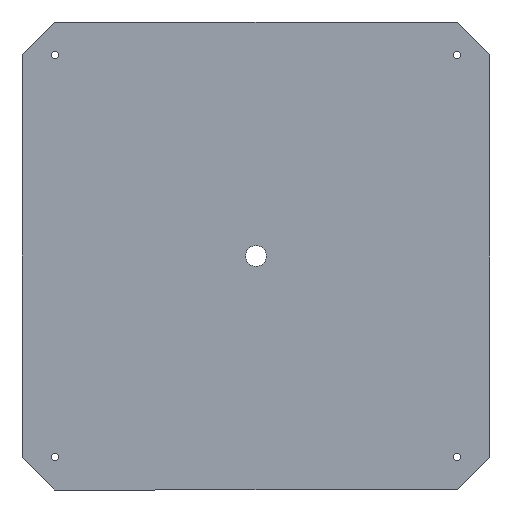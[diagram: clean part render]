
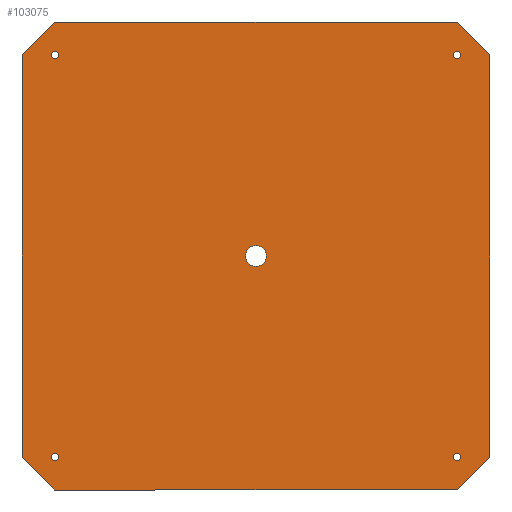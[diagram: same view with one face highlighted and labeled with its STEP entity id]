
A CAD part, front view. The second image highlights one B-rep face of the part: STEP entity #103075.
In plain terms, the highlighted planar face has unit normal (0, -1, 0).
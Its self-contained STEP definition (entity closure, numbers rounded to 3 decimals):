
#303 = EDGE_CURVE ( 'NONE', #1341, #1341, #80208, .T. ) ;
#381 = ORIENTED_EDGE ( 'NONE', *, *, #28779, .T. ) ;
#575 = CARTESIAN_POINT ( 'NONE',  ( -122., 0., -142. ) ) ;
#1329 = LINE ( 'NONE', #100580, #64411 ) ;
#1341 = VERTEX_POINT ( 'NONE', #25809 ) ;
#1510 = FACE_BOUND ( 'NONE', #94561, .T. ) ;
#3988 = LINE ( 'NONE', #37195, #11461 ) ;
#6443 = LINE ( 'NONE', #88797, #55093 ) ;
#8052 = CARTESIAN_POINT ( 'NONE',  ( 122., 0., 122. ) ) ;
#9137 = DIRECTION ( 'NONE',  ( 0., 1., 0. ) ) ;
#9542 = VECTOR ( 'NONE', #18320, 1000. ) ;
#11087 = ORIENTED_EDGE ( 'NONE', *, *, #19248, .F. ) ;
#11461 = VECTOR ( 'NONE', #103785, 1000. ) ;
#11804 = FACE_BOUND ( 'NONE', #99023, .T. ) ;
#12681 = VECTOR ( 'NONE', #64590, 1000. ) ;
#12717 = VERTEX_POINT ( 'NONE', #54646 ) ;
#12738 = CARTESIAN_POINT ( 'NONE',  ( 142., 0., 122. ) ) ;
#12750 = LINE ( 'NONE', #95714, #100981 ) ;
#13565 = DIRECTION ( 'NONE',  ( 0., 1., 0. ) ) ;
#14107 = DIRECTION ( 'NONE',  ( -0.707, 0., 0.707 ) ) ;
#14486 = EDGE_LOOP ( 'NONE', ( #83031 ) ) ;
#16304 = VERTEX_POINT ( 'NONE', #25543 ) ;
#17107 = CARTESIAN_POINT ( 'NONE',  ( -122., 0., -119.75 ) ) ;
#18183 = VERTEX_POINT ( 'NONE', #25245 ) ;
#18320 = DIRECTION ( 'NONE',  ( 0.707, 0., 0.707 ) ) ;
#18744 = ORIENTED_EDGE ( 'NONE', *, *, #35660, .T. ) ;
#19248 = EDGE_CURVE ( 'NONE', #81683, #16304, #48349, .T. ) ;
#19258 = ORIENTED_EDGE ( 'NONE', *, *, #77084, .T. ) ;
#19315 = DIRECTION ( 'NONE',  ( -0.707, 0., -0.707 ) ) ;
#19697 = VERTEX_POINT ( 'NONE', #38297 ) ;
#19974 = FACE_BOUND ( 'NONE', #93818, .T. ) ;
#20864 = VERTEX_POINT ( 'NONE', #575 ) ;
#21121 = AXIS2_PLACEMENT_3D ( 'NONE', #52563, #43862, #27472 ) ;
#21749 = ORIENTED_EDGE ( 'NONE', *, *, #83913, .T. ) ;
#23179 = CIRCLE ( 'NONE', #101652, 2.25 ) ;
#25245 = CARTESIAN_POINT ( 'NONE',  ( 122., 0., -119.75 ) ) ;
#25543 = CARTESIAN_POINT ( 'NONE',  ( -142., 0., 122. ) ) ;
#25809 = CARTESIAN_POINT ( 'NONE',  ( 0., 0., 6.35 ) ) ;
#26685 = EDGE_CURVE ( 'NONE', #81683, #20864, #1329, .T. ) ;
#26741 = AXIS2_PLACEMENT_3D ( 'NONE', #77510, #86294, #86839 ) ;
#27039 = CARTESIAN_POINT ( 'NONE',  ( 122., 0., -142. ) ) ;
#27404 = ORIENTED_EDGE ( 'NONE', *, *, #50290, .T. ) ;
#27472 = DIRECTION ( 'NONE',  ( 0., 0., 1. ) ) ;
#27578 = LINE ( 'NONE', #27039, #9542 ) ;
#27598 = FACE_OUTER_BOUND ( 'NONE', #40726, .T. ) ;
#27754 = ORIENTED_EDGE ( 'NONE', *, *, #69409, .F. ) ;
#28052 = VECTOR ( 'NONE', #37110, 1000. ) ;
#28779 = EDGE_CURVE ( 'NONE', #18183, #18183, #23179, .T. ) ;
#30018 = LINE ( 'NONE', #63731, #28052 ) ;
#32041 = DIRECTION ( 'NONE',  ( 0., 0., 1. ) ) ;
#33108 = CIRCLE ( 'NONE', #50454, 2.25 ) ;
#33517 = CARTESIAN_POINT ( 'NONE',  ( -142., 0., 142. ) ) ;
#33972 = VERTEX_POINT ( 'NONE', #17107 ) ;
#34688 = CARTESIAN_POINT ( 'NONE',  ( 0., 0., 0. ) ) ;
#34909 = AXIS2_PLACEMENT_3D ( 'NONE', #34688, #68470, #43428 ) ;
#35288 = VERTEX_POINT ( 'NONE', #94795 ) ;
#35660 = EDGE_CURVE ( 'NONE', #33972, #33972, #51936, .T. ) ;
#35694 = VERTEX_POINT ( 'NONE', #73212 ) ;
#37110 = DIRECTION ( 'NONE',  ( 0., 0., -1. ) ) ;
#37195 = CARTESIAN_POINT ( 'NONE',  ( 142., 0., -142. ) ) ;
#37297 = EDGE_CURVE ( 'NONE', #87260, #35694, #30018, .T. ) ;
#37533 = DIRECTION ( 'NONE',  ( 0., 0., 1. ) ) ;
#38297 = CARTESIAN_POINT ( 'NONE',  ( 122., 0., 142. ) ) ;
#40726 = EDGE_LOOP ( 'NONE', ( #11087, #50120, #68578, #27404, #104910, #21749, #27754, #19258 ) ) ;
#41515 = ORIENTED_EDGE ( 'NONE', *, *, #46970, .T. ) ;
#41617 = DIRECTION ( 'NONE',  ( 0.707, 0., -0.707 ) ) ;
#43428 = DIRECTION ( 'NONE',  ( 0., 0., 1. ) ) ;
#43862 = DIRECTION ( 'NONE',  ( 0., 1., 0. ) ) ;
#44971 = AXIS2_PLACEMENT_3D ( 'NONE', #81916, #97377, #49265 ) ;
#45975 = CARTESIAN_POINT ( 'NONE',  ( 122., 0., 124.25 ) ) ;
#46970 = EDGE_CURVE ( 'NONE', #75341, #75341, #33108, .T. ) ;
#48349 = LINE ( 'NONE', #80981, #69288 ) ;
#49265 = DIRECTION ( 'NONE',  ( 0., 0., 1. ) ) ;
#50104 = ORIENTED_EDGE ( 'NONE', *, *, #106057, .T. ) ;
#50120 = ORIENTED_EDGE ( 'NONE', *, *, #26685, .T. ) ;
#50290 = EDGE_CURVE ( 'NONE', #35288, #35694, #27578, .T. ) ;
#50454 = AXIS2_PLACEMENT_3D ( 'NONE', #8052, #9137, #32041 ) ;
#51936 = CIRCLE ( 'NONE', #44971, 2.25 ) ;
#52563 = CARTESIAN_POINT ( 'NONE',  ( 0., 0., 0. ) ) ;
#53986 = VERTEX_POINT ( 'NONE', #62417 ) ;
#54646 = CARTESIAN_POINT ( 'NONE',  ( -122., 0., 124.25 ) ) ;
#55093 = VECTOR ( 'NONE', #14107, 1000. ) ;
#55422 = DIRECTION ( 'NONE',  ( 0., 0., 1. ) ) ;
#61334 = FACE_BOUND ( 'NONE', #104372, .T. ) ;
#62417 = CARTESIAN_POINT ( 'NONE',  ( -122., 0., 142. ) ) ;
#63731 = CARTESIAN_POINT ( 'NONE',  ( 142., 0., 142. ) ) ;
#64411 = VECTOR ( 'NONE', #41617, 1000. ) ;
#64590 = DIRECTION ( 'NONE',  ( 1., 0., 0. ) ) ;
#68470 = DIRECTION ( 'NONE',  ( 0., 1., 0. ) ) ;
#68578 = ORIENTED_EDGE ( 'NONE', *, *, #90885, .F. ) ;
#69288 = VECTOR ( 'NONE', #55422, 1000. ) ;
#69409 = EDGE_CURVE ( 'NONE', #53986, #19697, #73310, .T. ) ;
#70212 = CIRCLE ( 'NONE', #26741, 2.25 ) ;
#71599 = CARTESIAN_POINT ( 'NONE',  ( -142., 0., -122. ) ) ;
#73212 = CARTESIAN_POINT ( 'NONE',  ( 142., 0., -122. ) ) ;
#73310 = LINE ( 'NONE', #33517, #12681 ) ;
#75341 = VERTEX_POINT ( 'NONE', #45975 ) ;
#77084 = EDGE_CURVE ( 'NONE', #53986, #16304, #12750, .T. ) ;
#77510 = CARTESIAN_POINT ( 'NONE',  ( -122., 0., 122. ) ) ;
#80208 = CIRCLE ( 'NONE', #21121, 6.35 ) ;
#80981 = CARTESIAN_POINT ( 'NONE',  ( -142., 0., -142. ) ) ;
#81683 = VERTEX_POINT ( 'NONE', #71599 ) ;
#81916 = CARTESIAN_POINT ( 'NONE',  ( -122., 0., -122. ) ) ;
#83031 = ORIENTED_EDGE ( 'NONE', *, *, #303, .T. ) ;
#83913 = EDGE_CURVE ( 'NONE', #87260, #19697, #6443, .T. ) ;
#85931 = PLANE ( 'NONE',  #34909 ) ;
#86294 = DIRECTION ( 'NONE',  ( 0., 1., 0. ) ) ;
#86839 = DIRECTION ( 'NONE',  ( 0., 0., 1. ) ) ;
#87260 = VERTEX_POINT ( 'NONE', #12738 ) ;
#88797 = CARTESIAN_POINT ( 'NONE',  ( 142., 0., 122. ) ) ;
#90885 = EDGE_CURVE ( 'NONE', #35288, #20864, #3988, .T. ) ;
#93818 = EDGE_LOOP ( 'NONE', ( #41515 ) ) ;
#94561 = EDGE_LOOP ( 'NONE', ( #381 ) ) ;
#94795 = CARTESIAN_POINT ( 'NONE',  ( 122., 0., -142. ) ) ;
#95714 = CARTESIAN_POINT ( 'NONE',  ( -122., 0., 142. ) ) ;
#96528 = CARTESIAN_POINT ( 'NONE',  ( 122., 0., -122. ) ) ;
#97377 = DIRECTION ( 'NONE',  ( 0., 1., 0. ) ) ;
#99023 = EDGE_LOOP ( 'NONE', ( #18744 ) ) ;
#100580 = CARTESIAN_POINT ( 'NONE',  ( -142., 0., -122. ) ) ;
#100981 = VECTOR ( 'NONE', #19315, 1000. ) ;
#101652 = AXIS2_PLACEMENT_3D ( 'NONE', #96528, #13565, #37533 ) ;
#102920 = FACE_BOUND ( 'NONE', #14486, .T. ) ;
#103075 = ADVANCED_FACE ( 'NONE', ( #1510, #61334, #19974, #11804, #102920, #27598 ), #85931, .F. ) ;
#103785 = DIRECTION ( 'NONE',  ( -1., 0., 0. ) ) ;
#104372 = EDGE_LOOP ( 'NONE', ( #50104 ) ) ;
#104910 = ORIENTED_EDGE ( 'NONE', *, *, #37297, .F. ) ;
#106057 = EDGE_CURVE ( 'NONE', #12717, #12717, #70212, .T. ) ;
